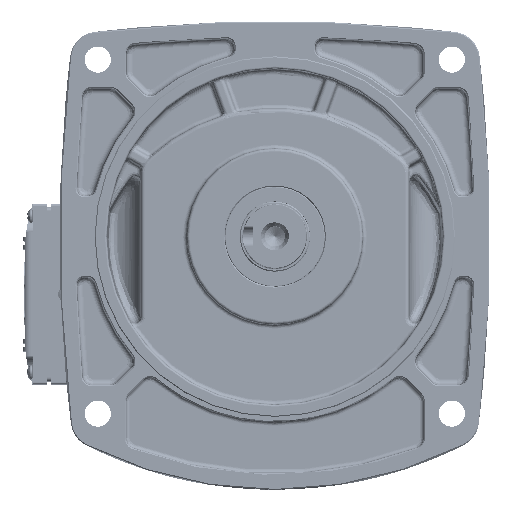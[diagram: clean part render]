
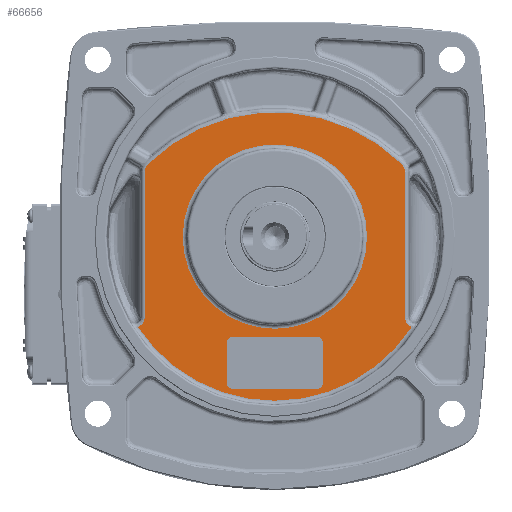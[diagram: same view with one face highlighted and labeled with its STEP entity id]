
A CAD part, top view. The second image highlights one B-rep face of the part: STEP entity #66656.
In plain terms, the highlighted planar face has unit normal (0, 0, 1).
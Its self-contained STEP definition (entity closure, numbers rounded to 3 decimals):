
#1655=LINE('',#142964,#4773);
#1656=LINE('',#143029,#4774);
#1705=LINE('',#145268,#4823);
#1706=LINE('',#145272,#4824);
#1707=LINE('',#145276,#4825);
#1708=LINE('',#145280,#4826);
#4773=VECTOR('',#83535,10.);
#4774=VECTOR('',#83544,10.);
#4823=VECTOR('',#84031,10.);
#4824=VECTOR('',#84034,10.);
#4825=VECTOR('',#84037,10.);
#4826=VECTOR('',#84040,10.);
#8340=FACE_BOUND('',#16173,.T.);
#8341=FACE_BOUND('',#16174,.T.);
#9000=PLANE('',#72173);
#12067=FACE_OUTER_BOUND('',#16172,.T.);
#16172=EDGE_LOOP('',(#50811,#50812,#50813,#50814,#50815,#50816,#50817,#50818));
#16173=EDGE_LOOP('',(#50819,#50820,#50821,#50822,#50823,#50824,#50825,#50826));
#16174=EDGE_LOOP('',(#50827));
#20194=CIRCLE('',#71966,46.);
#20277=CIRCLE('',#72099,90.551);
#20329=CIRCLE('',#72174,81.929);
#20330=CIRCLE('',#72175,3.);
#20331=CIRCLE('',#72176,3.);
#20332=CIRCLE('',#72177,3.);
#20333=CIRCLE('',#72178,3.);
#23859=B_SPLINE_CURVE_WITH_KNOTS('',3,(#143020,#143021,#143022,#143023,
#143024,#143025),.UNSPECIFIED.,.F.,.F.,(4,1,1,4),(0.,0.372,0.558,
0.621),.UNSPECIFIED.);
#23864=B_SPLINE_CURVE_WITH_KNOTS('',3,(#143169,#143170,#143171,#143172,
#143173),.UNSPECIFIED.,.F.,.F.,(4,1,4),(0.,0.205,0.478),
 .UNSPECIFIED.);
#23896=B_SPLINE_CURVE_WITH_KNOTS('',3,(#143446,#143447,#143448,#143449,
#143450),.UNSPECIFIED.,.F.,.F.,(4,1,4),(0.,0.273,0.478),
 .UNSPECIFIED.);
#23965=B_SPLINE_CURVE_WITH_KNOTS('',3,(#145261,#145262,#145263,#145264,
#145265),.UNSPECIFIED.,.F.,.F.,(4,1,4),(0.682,0.93,
1.302),.UNSPECIFIED.);
#27572=VERTEX_POINT('',#142961);
#27573=VERTEX_POINT('',#142963);
#27574=VERTEX_POINT('',#143006);
#27575=VERTEX_POINT('',#143018);
#27576=VERTEX_POINT('',#143027);
#27586=VERTEX_POINT('',#143054);
#27609=VERTEX_POINT('',#143167);
#27649=VERTEX_POINT('',#143445);
#27741=VERTEX_POINT('',#145259);
#27742=VERTEX_POINT('',#145266);
#27743=VERTEX_POINT('',#145267);
#27744=VERTEX_POINT('',#145269);
#27745=VERTEX_POINT('',#145271);
#27746=VERTEX_POINT('',#145273);
#27747=VERTEX_POINT('',#145275);
#27748=VERTEX_POINT('',#145277);
#27749=VERTEX_POINT('',#145279);
#35587=EDGE_CURVE('',#27572,#27573,#1655,.T.);
#35591=EDGE_CURVE('',#27575,#27574,#23859,.T.);
#35593=EDGE_CURVE('',#27576,#27575,#1656,.T.);
#35606=EDGE_CURVE('',#27586,#27586,#20194,.T.);
#35641=EDGE_CURVE('',#27609,#27576,#23864,.T.);
#35688=EDGE_CURVE('',#27573,#27649,#23896,.T.);
#35804=EDGE_CURVE('',#27649,#27609,#20277,.T.);
#35888=EDGE_CURVE('',#27574,#27741,#20329,.T.);
#35889=EDGE_CURVE('',#27741,#27572,#23965,.T.);
#35890=EDGE_CURVE('',#27742,#27743,#1705,.T.);
#35891=EDGE_CURVE('',#27744,#27743,#20330,.T.);
#35892=EDGE_CURVE('',#27744,#27745,#1706,.T.);
#35893=EDGE_CURVE('',#27746,#27745,#20331,.T.);
#35894=EDGE_CURVE('',#27746,#27747,#1707,.T.);
#35895=EDGE_CURVE('',#27748,#27747,#20332,.T.);
#35896=EDGE_CURVE('',#27748,#27749,#1708,.T.);
#35897=EDGE_CURVE('',#27742,#27749,#20333,.T.);
#50811=ORIENTED_EDGE('',*,*,#35888,.F.);
#50812=ORIENTED_EDGE('',*,*,#35591,.F.);
#50813=ORIENTED_EDGE('',*,*,#35593,.F.);
#50814=ORIENTED_EDGE('',*,*,#35641,.F.);
#50815=ORIENTED_EDGE('',*,*,#35804,.F.);
#50816=ORIENTED_EDGE('',*,*,#35688,.F.);
#50817=ORIENTED_EDGE('',*,*,#35587,.F.);
#50818=ORIENTED_EDGE('',*,*,#35889,.F.);
#50819=ORIENTED_EDGE('',*,*,#35890,.T.);
#50820=ORIENTED_EDGE('',*,*,#35891,.F.);
#50821=ORIENTED_EDGE('',*,*,#35892,.T.);
#50822=ORIENTED_EDGE('',*,*,#35893,.F.);
#50823=ORIENTED_EDGE('',*,*,#35894,.T.);
#50824=ORIENTED_EDGE('',*,*,#35895,.F.);
#50825=ORIENTED_EDGE('',*,*,#35896,.T.);
#50826=ORIENTED_EDGE('',*,*,#35897,.F.);
#50827=ORIENTED_EDGE('',*,*,#35606,.F.);
#66656=ADVANCED_FACE('',(#12067,#8340,#8341),#9000,.F.);
#71966=AXIS2_PLACEMENT_3D('',#143056,#83571,#83572);
#72099=AXIS2_PLACEMENT_3D('',#144414,#83872,#83873);
#72173=AXIS2_PLACEMENT_3D('',#145258,#84027,#84028);
#72174=AXIS2_PLACEMENT_3D('',#145260,#84029,#84030);
#72175=AXIS2_PLACEMENT_3D('',#145270,#84032,#84033);
#72176=AXIS2_PLACEMENT_3D('',#145274,#84035,#84036);
#72177=AXIS2_PLACEMENT_3D('',#145278,#84038,#84039);
#72178=AXIS2_PLACEMENT_3D('',#145281,#84041,#84042);
#83535=DIRECTION('',(0.,1.,0.));
#83544=DIRECTION('',(0.,-1.,0.));
#83571=DIRECTION('center_axis',(0.,0.,1.));
#83572=DIRECTION('ref_axis',(-1.,0.,0.));
#83872=DIRECTION('center_axis',(0.,0.,-1.));
#83873=DIRECTION('ref_axis',(0.,1.,0.));
#84027=DIRECTION('center_axis',(0.,0.,-1.));
#84028=DIRECTION('ref_axis',(-1.,0.,0.));
#84029=DIRECTION('center_axis',(0.,0.,-1.));
#84030=DIRECTION('ref_axis',(0.,-1.,0.));
#84031=DIRECTION('',(0.,1.,0.));
#84032=DIRECTION('center_axis',(0.,0.,1.));
#84033=DIRECTION('ref_axis',(-0.707,0.707,0.));
#84034=DIRECTION('',(1.,0.,0.));
#84035=DIRECTION('center_axis',(0.,0.,1.));
#84036=DIRECTION('ref_axis',(0.707,0.707,0.));
#84037=DIRECTION('',(0.,-1.,0.));
#84038=DIRECTION('center_axis',(0.,0.,1.));
#84039=DIRECTION('ref_axis',(0.707,-0.707,0.));
#84040=DIRECTION('',(-1.,0.,0.));
#84041=DIRECTION('center_axis',(0.,0.,1.));
#84042=DIRECTION('ref_axis',(-0.707,-0.707,0.));
#142961=CARTESIAN_POINT('',(-62.109,-11.751,67.));
#142963=CARTESIAN_POINT('',(-62.109,60.641,67.));
#142964=CARTESIAN_POINT('',(-62.109,-41.67,67.));
#143006=CARTESIAN_POINT('',(71.3,-16.503,67.));
#143018=CARTESIAN_POINT('',(67.891,-11.751,67.));
#143020=CARTESIAN_POINT('Ctrl Pts',(67.891,-11.751,
67.));
#143021=CARTESIAN_POINT('Ctrl Pts',(67.891,-12.992,
67.));
#143022=CARTESIAN_POINT('Ctrl Pts',(68.62,-14.854,
67.));
#143023=CARTESIAN_POINT('Ctrl Pts',(70.33,-16.116,
67.));
#143024=CARTESIAN_POINT('Ctrl Pts',(71.103,-16.432,
67.));
#143025=CARTESIAN_POINT('Ctrl Pts',(71.301,-16.498,
67.));
#143027=CARTESIAN_POINT('',(67.891,60.641,67.));
#143029=CARTESIAN_POINT('',(67.891,-41.67,67.));
#143054=CARTESIAN_POINT('',(48.891,28.58,67.));
#143056=CARTESIAN_POINT('Origin',(2.891,28.58,67.));
#143167=CARTESIAN_POINT('',(66.076,64.943,67.));
#143169=CARTESIAN_POINT('Ctrl Pts',(66.076,64.943,67.));
#143170=CARTESIAN_POINT('Ctrl Pts',(66.565,64.467,67.));
#143171=CARTESIAN_POINT('Ctrl Pts',(67.525,63.141,67.));
#143172=CARTESIAN_POINT('Ctrl Pts',(67.891,61.551,67.));
#143173=CARTESIAN_POINT('Ctrl Pts',(67.891,60.641,67.));
#143445=CARTESIAN_POINT('',(-60.295,64.943,67.));
#143446=CARTESIAN_POINT('Ctrl Pts',(-62.109,60.641,67.));
#143447=CARTESIAN_POINT('Ctrl Pts',(-62.109,61.551,67.));
#143448=CARTESIAN_POINT('Ctrl Pts',(-61.743,63.141,67.));
#143449=CARTESIAN_POINT('Ctrl Pts',(-60.783,64.467,
67.));
#143450=CARTESIAN_POINT('Ctrl Pts',(-60.295,64.943,
67.));
#144414=CARTESIAN_POINT('Origin',(2.891,0.08,67.));
#145258=CARTESIAN_POINT('Origin',(2.891,0.08,67.));
#145259=CARTESIAN_POINT('',(-65.518,-16.503,67.));
#145260=CARTESIAN_POINT('Origin',(2.891,28.58,67.));
#145261=CARTESIAN_POINT('Ctrl Pts',(-65.52,-16.499,
67.));
#145262=CARTESIAN_POINT('Ctrl Pts',(-64.731,-16.23,
67.));
#145263=CARTESIAN_POINT('Ctrl Pts',(-62.92,-15.07,
67.));
#145264=CARTESIAN_POINT('Ctrl Pts',(-62.109,-12.992,
67.));
#145265=CARTESIAN_POINT('Ctrl Pts',(-62.109,-11.751,
67.));
#145266=CARTESIAN_POINT('',(-21.109,-44.42,67.));
#145267=CARTESIAN_POINT('',(-21.109,-24.42,67.));
#145268=CARTESIAN_POINT('',(-21.109,-10.67,67.));
#145269=CARTESIAN_POINT('',(-18.109,-21.42,67.));
#145270=CARTESIAN_POINT('Origin',(-18.109,-24.42,67.));
#145271=CARTESIAN_POINT('',(23.891,-21.42,67.));
#145272=CARTESIAN_POINT('',(14.891,-21.42,67.));
#145273=CARTESIAN_POINT('',(26.891,-24.42,67.));
#145274=CARTESIAN_POINT('Origin',(23.891,-24.42,67.));
#145275=CARTESIAN_POINT('',(26.891,-44.42,67.));
#145276=CARTESIAN_POINT('',(26.891,-23.67,67.));
#145277=CARTESIAN_POINT('',(23.891,-47.42,67.));
#145278=CARTESIAN_POINT('Origin',(23.891,-44.42,67.));
#145279=CARTESIAN_POINT('',(-18.109,-47.42,67.));
#145280=CARTESIAN_POINT('',(-9.109,-47.42,67.));
#145281=CARTESIAN_POINT('Origin',(-18.109,-44.42,67.));
